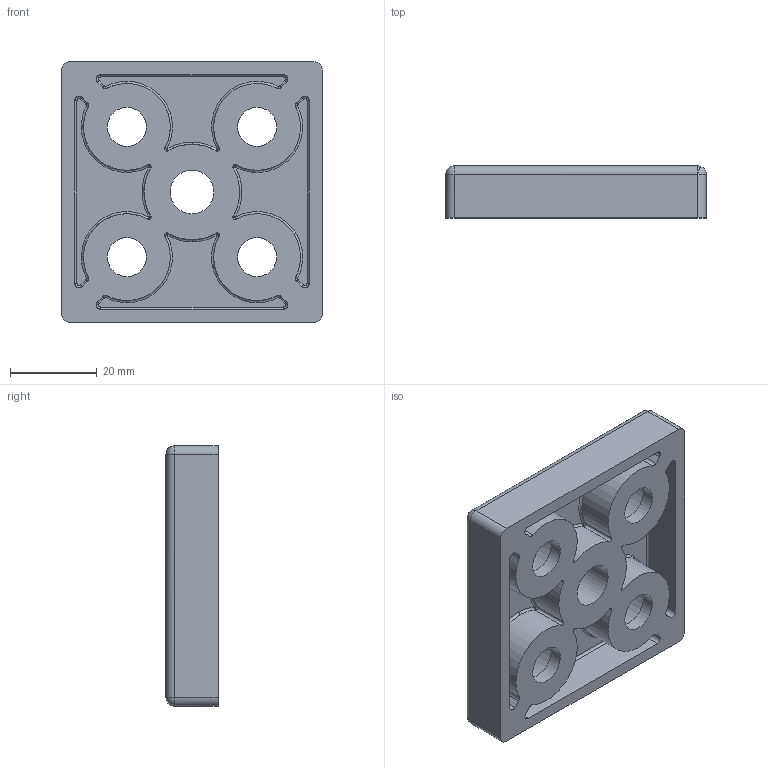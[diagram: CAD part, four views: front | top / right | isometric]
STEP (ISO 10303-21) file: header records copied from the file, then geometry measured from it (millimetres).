
FILE_DESCRIPTION (( 'STEP AP203' ), '1' );
FILE_NAME ('10139_FUS8.6060M12.STEP', '2018-05-24T09:29:50', ( '' ), ( '' ), 'SwSTEP 2.0', 'SolidWorks 2017', '' );
FILE_SCHEMA (( 'CONFIG_CONTROL_DESIGN' ));
Length unit declared in the file: millimetre
Products named in the file (1): 10139_FUS8.6060M12
Bounding box: 60 x 12 x 60 mm (x, y, z)
Volume: 24598.9 mm3; surface area: 15642.7 mm2
Topology: 1 solids, 1 shells, 185 faces, 477 edges, 296 vertices
Faces by surface type: cylinder 87, torus 51, plane 26, sphere 18, cone 2, bspline 1
Entity records: 7395 total; most frequent: CARTESIAN_POINT 2858, DIRECTION 995, ORIENTED_EDGE 918, EDGE_CURVE 459, AXIS2_PLACEMENT_3D 429, VERTEX_POINT 284, CIRCLE 244, EDGE_LOOP 203
